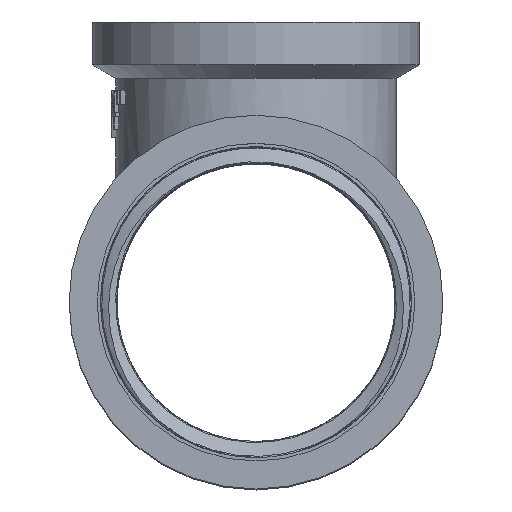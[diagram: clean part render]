
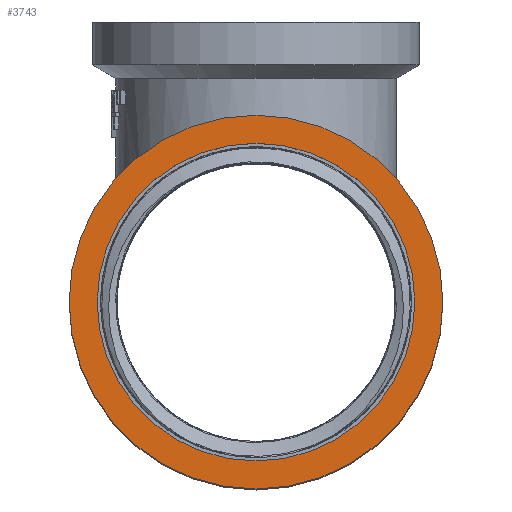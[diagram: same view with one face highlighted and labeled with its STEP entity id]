
A CAD part, top view. The second image highlights one B-rep face of the part: STEP entity #3743.
In plain terms, the highlighted planar face has unit normal (0, 0, 1).
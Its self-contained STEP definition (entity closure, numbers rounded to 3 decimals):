
#39=FACE_BOUND('',#1212,.T.);
#819=PLANE('',#4094);
#981=FACE_OUTER_BOUND('',#1211,.T.);
#1211=EDGE_LOOP('',(#3169,#3170));
#1212=EDGE_LOOP('',(#3171,#3172));
#1433=CIRCLE('',#4092,20.);
#1434=CIRCLE('',#4093,20.);
#1435=CIRCLE('',#4095,17.);
#1436=CIRCLE('',#4096,17.);
#1734=VERTEX_POINT('',#6880);
#1735=VERTEX_POINT('',#6881);
#1736=VERTEX_POINT('',#6886);
#1737=VERTEX_POINT('',#6887);
#2239=EDGE_CURVE('',#1734,#1735,#1433,.T.);
#2240=EDGE_CURVE('',#1735,#1734,#1434,.T.);
#2242=EDGE_CURVE('',#1736,#1737,#1435,.T.);
#2243=EDGE_CURVE('',#1737,#1736,#1436,.T.);
#3169=ORIENTED_EDGE('',*,*,#2239,.T.);
#3170=ORIENTED_EDGE('',*,*,#2240,.T.);
#3171=ORIENTED_EDGE('',*,*,#2242,.F.);
#3172=ORIENTED_EDGE('',*,*,#2243,.F.);
#3743=ADVANCED_FACE('',(#981,#39),#819,.T.);
#4092=AXIS2_PLACEMENT_3D('',#6882,#4885,#4886);
#4093=AXIS2_PLACEMENT_3D('',#6883,#4887,#4888);
#4094=AXIS2_PLACEMENT_3D('',#6885,#4890,#4891);
#4095=AXIS2_PLACEMENT_3D('',#6888,#4892,#4893);
#4096=AXIS2_PLACEMENT_3D('',#6889,#4894,#4895);
#4885=DIRECTION('center_axis',(0.,0.,1.));
#4886=DIRECTION('ref_axis',(1.,0.,0.));
#4887=DIRECTION('center_axis',(0.,0.,1.));
#4888=DIRECTION('ref_axis',(1.,0.,0.));
#4890=DIRECTION('center_axis',(0.,0.,1.));
#4891=DIRECTION('ref_axis',(1.,0.,0.));
#4892=DIRECTION('center_axis',(0.,0.,1.));
#4893=DIRECTION('ref_axis',(1.,0.,0.));
#4894=DIRECTION('center_axis',(0.,0.,1.));
#4895=DIRECTION('ref_axis',(1.,0.,0.));
#6880=CARTESIAN_POINT('',(0.,-20.,30.6));
#6881=CARTESIAN_POINT('',(0.,20.,30.6));
#6882=CARTESIAN_POINT('Origin',(0.,0.,30.6));
#6883=CARTESIAN_POINT('Origin',(0.,0.,30.6));
#6885=CARTESIAN_POINT('Origin',(0.,-17.,30.6));
#6886=CARTESIAN_POINT('',(0.,-17.,30.6));
#6887=CARTESIAN_POINT('',(0.,17.,30.6));
#6888=CARTESIAN_POINT('Origin',(0.,0.,30.6));
#6889=CARTESIAN_POINT('Origin',(0.,0.,30.6));
